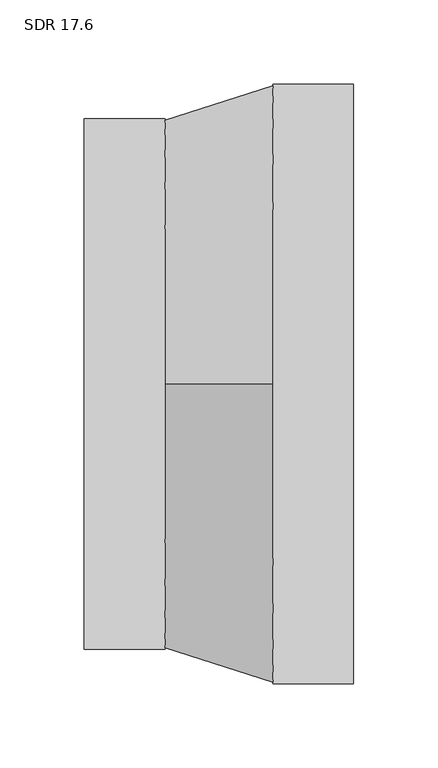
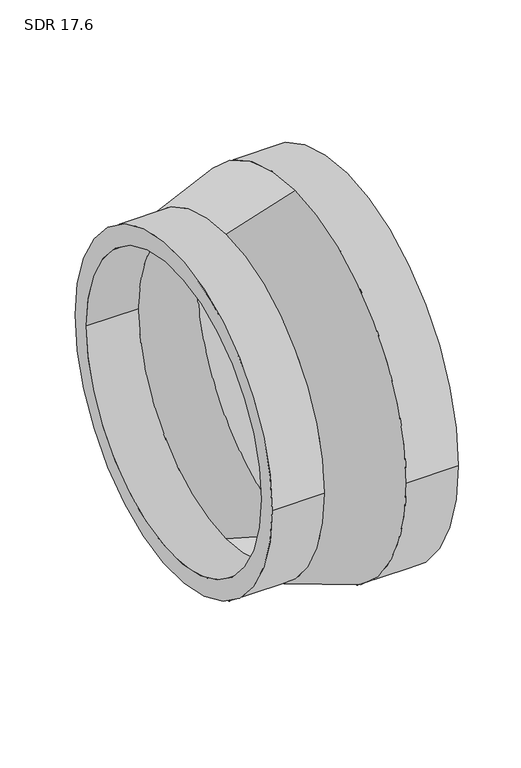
"""IFC4 building model written with IfcOpenShell, lengths in millimetres: pipe fitting geometry, Aquatherm - Reducing Coupling Combined - METRIC : SDR 17.6."""

from ifc_helpers import new_model, si_unit, frame, origin, place, context, project, spatial, polyline, circle_curve, source, transform, mapped, element, save
from ifc_brep_helpers import plane_surface, cylinder_surface, revolved_surface, advanced_brep


def sdr_17_6_54c3194c(model_context):
    return source(origin(), model_context, "Body", "AdvancedBrep", [
        advanced_brep(
        [(-80.01, -157.48, 0.0), (-80.01, 157.48, 0.0), (-80.01, -139.5845455, 0.0), (-80.01, 139.5845455, 0.0), (-32.004, 139.5845455, 0.0), (-32.004, 0.0, 139.5845455), (-32.004, -139.5845455, 0.0), (-32.004, 0.0, -139.5845455), (-32.004, 157.48, 0.0), (-32.004, 0.0, -157.48), (-32.004, -157.48, 0.0), (-32.004, 0.0, 157.48), (80.01, -177.8, 0.0), (80.01, 177.8, 0.0), (80.01, -157.5954545, 0.0), (80.01, 157.5954545, 0.0), (32.004, -177.8, 0.0), (32.004, 0.0, -177.8), (32.004, 177.8, 0.0), (32.004, 0.0, 177.8), (32.004, -157.5954545, 0.0), (32.004, 0.0, 157.5954545), (32.004, 157.5954545, 0.0), (32.004, 0.0, -157.5954545)],
        [
            (0, 1, circle_curve(frame((-80.01, 0.0, 0.0), z_axis=(-1.0, 0.0, 0.0), x_axis=(0.0, 1.0, 0.0)), 157.48)),
            (1, 0, circle_curve(frame((-80.01, 0.0, 0.0), z_axis=(-1.0, 0.0, 0.0), x_axis=(0.0, 1.0, 0.0)), 157.48)),
            (2, 3, circle_curve(frame((-80.01, 0.0, 0.0), z_axis=(1.0, 0.0, 0.0), x_axis=(0.0, 1.0, 0.0)), 139.5845455)),
            (3, 2, circle_curve(frame((-80.01, 0.0, 0.0), z_axis=(1.0, 0.0, 0.0), x_axis=(0.0, 1.0, 0.0)), 139.5845455)),
            (3, 4),
            (4, 5, circle_curve(frame((-32.004, 0.0, 0.0), z_axis=(1.0, 0.0, 0.0), x_axis=(0.0, 1.0, 0.0)), 139.5845455)),
            (5, 6, circle_curve(frame((-32.004, 0.0, 0.0), z_axis=(1.0, 0.0, 0.0), x_axis=(0.0, 1.0, 0.0)), 139.5845455)),
            (6, 2),
            (6, 7, circle_curve(frame((-32.004, 0.0, 0.0), z_axis=(1.0, 0.0, 0.0), x_axis=(0.0, 1.0, 0.0)), 139.5845455)),
            (7, 4, circle_curve(frame((-32.004, 0.0, 0.0), z_axis=(1.0, 0.0, 0.0), x_axis=(0.0, 1.0, 0.0)), 139.5845455)),
            (1, 8),
            (8, 9, circle_curve(frame((-32.004, 0.0, 0.0), z_axis=(-1.0, 0.0, 0.0), x_axis=(0.0, 1.0, 0.0)), 157.48)),
            (9, 10, circle_curve(frame((-32.004, 0.0, 0.0), z_axis=(-1.0, 0.0, 0.0), x_axis=(0.0, 1.0, 0.0)), 157.48)),
            (10, 0),
            (10, 11, circle_curve(frame((-32.004, 0.0, 0.0), z_axis=(-1.0, 0.0, 0.0), x_axis=(0.0, 1.0, 0.0)), 157.48)),
            (11, 8, circle_curve(frame((-32.004, 0.0, 0.0), z_axis=(-1.0, 0.0, 0.0), x_axis=(0.0, 1.0, 0.0)), 157.48)),
            (12, 13, circle_curve(frame((80.01, 0.0, 0.0), z_axis=(1.0, 0.0, 0.0), x_axis=(0.0, 1.0, 0.0)), 177.8)),
            (13, 12, circle_curve(frame((80.01, 0.0, 0.0), z_axis=(1.0, 0.0, 0.0), x_axis=(0.0, 1.0, 0.0)), 177.8)),
            (14, 15, circle_curve(frame((80.01, 0.0, 0.0), z_axis=(-1.0, 0.0, 0.0), x_axis=(0.0, 1.0, 0.0)), 157.5954545)),
            (15, 14, circle_curve(frame((80.01, 0.0, 0.0), z_axis=(-1.0, 0.0, 0.0), x_axis=(0.0, 1.0, 0.0)), 157.5954545)),
            (12, 16),
            (16, 17, circle_curve(frame((32.004, 0.0, 0.0), z_axis=(1.0, 0.0, 0.0), x_axis=(0.0, 1.0, 0.0)), 177.8)),
            (17, 18, circle_curve(frame((32.004, 0.0, 0.0), z_axis=(1.0, 0.0, 0.0), x_axis=(0.0, 1.0, 0.0)), 177.8)),
            (18, 13),
            (18, 19, circle_curve(frame((32.004, 0.0, 0.0), z_axis=(1.0, 0.0, 0.0), x_axis=(0.0, 1.0, 0.0)), 177.8)),
            (19, 16, circle_curve(frame((32.004, 0.0, 0.0), z_axis=(1.0, 0.0, 0.0), x_axis=(0.0, 1.0, 0.0)), 177.8)),
            (14, 20),
            (20, 21, circle_curve(frame((32.004, 0.0, 0.0), z_axis=(-1.0, 0.0, 0.0), x_axis=(0.0, 1.0, 0.0)), 157.5954545)),
            (21, 22, circle_curve(frame((32.004, 0.0, 0.0), z_axis=(-1.0, 0.0, 0.0), x_axis=(0.0, 1.0, 0.0)), 157.5954545)),
            (22, 15),
            (22, 23, circle_curve(frame((32.004, 0.0, 0.0), z_axis=(-1.0, 0.0, 0.0), x_axis=(0.0, 1.0, 0.0)), 157.5954545)),
            (23, 20, circle_curve(frame((32.004, 0.0, 0.0), z_axis=(-1.0, 0.0, 0.0), x_axis=(0.0, 1.0, 0.0)), 157.5954545)),
            (11, 19),
            (17, 9),
            (21, 5),
            (7, 23),
        ],
        [
            plane_surface(frame((-80.01, 139.5845455, 0.0), z_axis=(-1.0, 0.0, 0.0), x_axis=(0.0, 0.0, 1.0))),
            revolved_surface(polyline([(-80.01, 139.5845455, 0.0), (-32.004, 139.5845455, 0.0)]), (-80.01, 0.0, 0.0), (-1.0, 0.0, 0.0)),
            cylinder_surface(frame((0.0, 0.0, 0.0), z_axis=(1.0, 0.0, 0.0), x_axis=(0.0, 1.0, 0.0)), 157.48),
            plane_surface(frame((80.01, 177.8, 0.0), z_axis=(1.0, 0.0, 0.0), x_axis=(0.0, 0.0, 1.0))),
            cylinder_surface(frame((32.004, 0.0, 0.0), z_axis=(1.0, 0.0, 0.0), x_axis=(0.0, 1.0, 0.0)), 177.8),
            revolved_surface(polyline([(32.004, 157.5954545, 0.0), (80.01, 157.5954545, 0.0)]), (0.0, 0.0, 0.0), (-1.0, 0.0, 0.0)),
            revolved_surface(polyline([(32.004, 0.0, 177.8), (-32.004, 0.0, 157.48)]), (-655.2695384, 0.0, 0.0), (-1.0, 0.0, 0.0)),
            revolved_surface(polyline([(-32.004, 0.0, 139.5845455), (32.004, 0.0, 157.5954545)]), (-655.2695384, 0.0, 0.0), (-1.0, 0.0, 0.0)),
        ],
        [
            (0, [[1, 2], [3, 4]]),
            (1, [[-4, 5, 6, 7, 8]]),
            (1, [[-3, -8, 9, 10, -5]]),
            (2, [[-2, 11, 12, 13, 14]]),
            (2, [[-1, -14, 15, 16, -11]]),
            (3, [[17, 18], [19, 20]]),
            (4, [[-17, 21, 22, 23, 24]]),
            (4, [[-18, -24, 25, 26, -21]]),
            (5, [[-19, 27, 28, 29, 30]]),
            (5, [[-20, -30, 31, 32, -27]]),
            (6, [[33, -25, -23, 34, -12, -16]]),
            (6, [[-33, -15, -13, -34, -22, -26]]),
            (7, [[35, -6, -10, 36, -31, -29]]),
            (7, [[-35, -28, -32, -36, -9, -7]]),
        ],
    ),
    ])


if __name__ == "__main__":
    model = new_model("IFC4")
    model_context = context("Model", 3, world=origin())
    ifc_project = project(units=[si_unit("LENGTHUNIT", "METRE", prefix="MILLI")], contexts=[model_context])
    site = spatial("IfcSite", under=ifc_project)
    building = spatial("IfcBuilding", under=site)
    placement = place(None, origin())
    sdr_17_6_shape = sdr_17_6_54c3194c(model_context)
    element("IfcPipeFitting", 1, ObjectType="Aquatherm - Reducing Coupling Combined - METRIC : SDR 17.6", at=placement, inside=building, context=model_context, shape_type="MappedRepresentation", body=[
        mapped(sdr_17_6_shape, transform((0.0, 0.0, 0.0), x_axis=(1.0, 0.0, 0.0), y_axis=(0.0, 1.0, 0.0), z_axis=(0.0, 0.0, 1.0))),
    ])
    save(model, "model.ifc")
